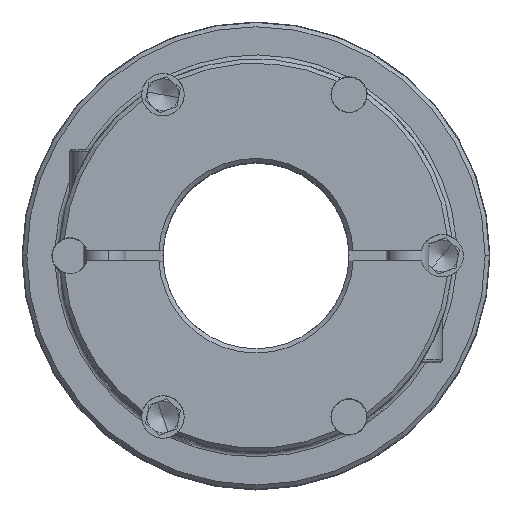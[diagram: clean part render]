
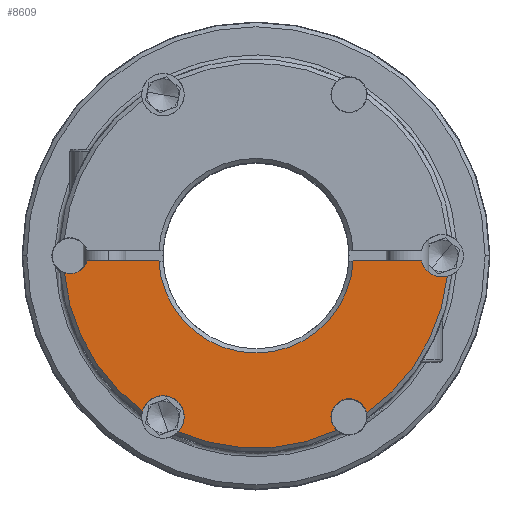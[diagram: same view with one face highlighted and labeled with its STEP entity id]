
A CAD part, top view. The second image highlights one B-rep face of the part: STEP entity #8609.
In plain terms, the highlighted planar face has unit normal (0, 0, 1).
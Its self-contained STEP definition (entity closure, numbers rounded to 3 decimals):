
#317 = CARTESIAN_POINT ( 'NONE',  ( -36.055, -3.232, 34.15 ) ) ;
#362 = ORIENTED_EDGE ( 'NONE', *, *, #17012, .T. ) ;
#499 = CIRCLE ( 'NONE', #13444, 18.3 ) ;
#884 = ORIENTED_EDGE ( 'NONE', *, *, #22880, .T. ) ;
#1342 = CIRCLE ( 'NONE', #6514, 3.4 ) ;
#1372 = CARTESIAN_POINT ( 'NONE',  ( 0., 0., 34.15 ) ) ;
#1648 = CARTESIAN_POINT ( 'NONE',  ( -31.75, -1., 34.15 ) ) ;
#1771 = CIRCLE ( 'NONE', #14701, 36.2 ) ;
#2232 = EDGE_CURVE ( 'NONE', #13104, #17610, #18995, .T. ) ;
#2491 = CARTESIAN_POINT ( 'NONE',  ( -18.273, -1., 34.15 ) ) ;
#2518 = DIRECTION ( 'NONE',  ( 1., 0., 0. ) ) ;
#2785 = DIRECTION ( 'NONE',  ( 0., 0., 1. ) ) ;
#3213 = AXIS2_PLACEMENT_3D ( 'NONE', #17622, #21471, #5693 ) ;
#3485 = CARTESIAN_POINT ( 'NONE',  ( -14.64, -33.108, 34.15 ) ) ;
#3672 = DIRECTION ( 'NONE',  ( 1., 0., 0. ) ) ;
#3753 = CARTESIAN_POINT ( 'NONE',  ( 0., 0., 34.15 ) ) ;
#3754 = VECTOR ( 'NONE', #3672, 1000. ) ;
#3868 = DIRECTION ( 'NONE',  ( 1., 0., 0. ) ) ;
#4063 = CARTESIAN_POINT ( 'NONE',  ( 0., 0., 34.15 ) ) ;
#4842 = AXIS2_PLACEMENT_3D ( 'NONE', #6094, #13279, #20482 ) ;
#5020 = AXIS2_PLACEMENT_3D ( 'NONE', #11571, #8096, #17007 ) ;
#5388 = CARTESIAN_POINT ( 'NONE',  ( -44., -1., 34.15 ) ) ;
#5563 = DIRECTION ( 'NONE',  ( 0., 0., 1. ) ) ;
#5594 = VERTEX_POINT ( 'NONE', #19802 ) ;
#5693 = DIRECTION ( 'NONE',  ( 0.5, 0.866, 0. ) ) ;
#5777 = CARTESIAN_POINT ( 'NONE',  ( 18.273, -1., 34.15 ) ) ;
#6094 = CARTESIAN_POINT ( 'NONE',  ( 17.5, -30.311, 34.15 ) ) ;
#6514 = AXIS2_PLACEMENT_3D ( 'NONE', #7977, #22233, #17120 ) ;
#7151 = EDGE_CURVE ( 'NONE', #11296, #5594, #17685, .T. ) ;
#7259 = ORIENTED_EDGE ( 'NONE', *, *, #7905, .T. ) ;
#7905 = EDGE_CURVE ( 'NONE', #20578, #11296, #1342, .T. ) ;
#7977 = CARTESIAN_POINT ( 'NONE',  ( 17.5, -30.311, 34.15 ) ) ;
#8094 = DIRECTION ( 'NONE',  ( 1., 0., 0. ) ) ;
#8096 = DIRECTION ( 'NONE',  ( 0., 0., -1. ) ) ;
#8609 = ADVANCED_FACE ( 'NONE', ( #12848 ), #9048, .T. ) ;
#9048 = PLANE ( 'NONE',  #20468 ) ;
#9108 = EDGE_CURVE ( 'NONE', #17994, #10118, #499, .T. ) ;
#9152 = DIRECTION ( 'NONE',  ( 0., 0., -1. ) ) ;
#9469 = CARTESIAN_POINT ( 'NONE',  ( 0., 0., 34.15 ) ) ;
#10020 = CIRCLE ( 'NONE', #4842, 3.4 ) ;
#10118 = VERTEX_POINT ( 'NONE', #2491 ) ;
#10238 = EDGE_LOOP ( 'NONE', ( #21371, #10383, #15024, #10656, #16852, #362, #7259, #10539, #884, #12604, #20233 ) ) ;
#10259 = EDGE_CURVE ( 'NONE', #17994, #20498, #21357, .T. ) ;
#10383 = ORIENTED_EDGE ( 'NONE', *, *, #15011, .T. ) ;
#10539 = ORIENTED_EDGE ( 'NONE', *, *, #7151, .T. ) ;
#10656 = ORIENTED_EDGE ( 'NONE', *, *, #21184, .T. ) ;
#10831 = CARTESIAN_POINT ( 'NONE',  ( 15.229, -32.841, 34.15 ) ) ;
#11040 = AXIS2_PLACEMENT_3D ( 'NONE', #1372, #2785, #8094 ) ;
#11296 = VERTEX_POINT ( 'NONE', #18119 ) ;
#11505 = EDGE_CURVE ( 'NONE', #19724, #10118, #17646, .T. ) ;
#11571 = CARTESIAN_POINT ( 'NONE',  ( -35., 0., 34.15 ) ) ;
#12445 = CARTESIAN_POINT ( 'NONE',  ( 31.127, -1., 34.15 ) ) ;
#12604 = ORIENTED_EDGE ( 'NONE', *, *, #10259, .F. ) ;
#12743 = DIRECTION ( 'NONE',  ( 1., 0., 0. ) ) ;
#12848 = FACE_OUTER_BOUND ( 'NONE', #10238, .T. ) ;
#13104 = VERTEX_POINT ( 'NONE', #317 ) ;
#13272 = DIRECTION ( 'NONE',  ( 1., 0., 0. ) ) ;
#13275 = DIRECTION ( 'NONE',  ( 0., 0., -1. ) ) ;
#13279 = DIRECTION ( 'NONE',  ( 0., 0., -1. ) ) ;
#13385 = DIRECTION ( 'NONE',  ( 0., 0., 1. ) ) ;
#13444 = AXIS2_PLACEMENT_3D ( 'NONE', #15006, #13275, #2518 ) ;
#13890 = CIRCLE ( 'NONE', #5020, 3.4 ) ;
#14052 = CARTESIAN_POINT ( 'NONE',  ( -21.352, -29.232, 34.15 ) ) ;
#14124 = CARTESIAN_POINT ( 'NONE',  ( 35., 0., 34.15 ) ) ;
#14701 = AXIS2_PLACEMENT_3D ( 'NONE', #3753, #19721, #3868 ) ;
#15006 = CARTESIAN_POINT ( 'NONE',  ( 0., 0., 34.15 ) ) ;
#15010 = CIRCLE ( 'NONE', #3213, 4. ) ;
#15011 = EDGE_CURVE ( 'NONE', #19724, #13104, #13890, .T. ) ;
#15024 = ORIENTED_EDGE ( 'NONE', *, *, #2232, .T. ) ;
#15903 = CARTESIAN_POINT ( 'NONE',  ( 14.1, -30.311, 34.15 ) ) ;
#16077 = DIRECTION ( 'NONE',  ( -1., 0., 0. ) ) ;
#16198 = VERTEX_POINT ( 'NONE', #10831 ) ;
#16384 = AXIS2_PLACEMENT_3D ( 'NONE', #9469, #13385, #13272 ) ;
#16797 = VERTEX_POINT ( 'NONE', #3485 ) ;
#16852 = ORIENTED_EDGE ( 'NONE', *, *, #22500, .T. ) ;
#17007 = DIRECTION ( 'NONE',  ( -1., 0., 0. ) ) ;
#17012 = EDGE_CURVE ( 'NONE', #16198, #20578, #10020, .T. ) ;
#17120 = DIRECTION ( 'NONE',  ( -1., 0., 0. ) ) ;
#17610 = VERTEX_POINT ( 'NONE', #14052 ) ;
#17622 = CARTESIAN_POINT ( 'NONE',  ( -17.5, -30.311, 34.15 ) ) ;
#17646 = LINE ( 'NONE', #5388, #3754 ) ;
#17676 = CIRCLE ( 'NONE', #18049, 4. ) ;
#17685 = CIRCLE ( 'NONE', #11040, 36.2 ) ;
#17712 = DIRECTION ( 'NONE',  ( 1., 0., 0. ) ) ;
#17994 = VERTEX_POINT ( 'NONE', #5777 ) ;
#18049 = AXIS2_PLACEMENT_3D ( 'NONE', #14124, #9152, #16077 ) ;
#18119 = CARTESIAN_POINT ( 'NONE',  ( 20.827, -29.609, 34.15 ) ) ;
#18995 = CIRCLE ( 'NONE', #16384, 36.2 ) ;
#19721 = DIRECTION ( 'NONE',  ( 0., 0., 1. ) ) ;
#19724 = VERTEX_POINT ( 'NONE', #1648 ) ;
#19802 = CARTESIAN_POINT ( 'NONE',  ( 35.992, -3.875, 34.15 ) ) ;
#20233 = ORIENTED_EDGE ( 'NONE', *, *, #9108, .T. ) ;
#20370 = VECTOR ( 'NONE', #12743, 1000. ) ;
#20468 = AXIS2_PLACEMENT_3D ( 'NONE', #4063, #5563, #17712 ) ;
#20482 = DIRECTION ( 'NONE',  ( -1., 0., 0. ) ) ;
#20498 = VERTEX_POINT ( 'NONE', #12445 ) ;
#20578 = VERTEX_POINT ( 'NONE', #15903 ) ;
#21184 = EDGE_CURVE ( 'NONE', #17610, #16797, #15010, .T. ) ;
#21239 = CARTESIAN_POINT ( 'NONE',  ( -44., -1., 34.15 ) ) ;
#21357 = LINE ( 'NONE', #21239, #20370 ) ;
#21371 = ORIENTED_EDGE ( 'NONE', *, *, #11505, .F. ) ;
#21471 = DIRECTION ( 'NONE',  ( 0., 0., -1. ) ) ;
#22233 = DIRECTION ( 'NONE',  ( 0., 0., -1. ) ) ;
#22500 = EDGE_CURVE ( 'NONE', #16797, #16198, #1771, .T. ) ;
#22880 = EDGE_CURVE ( 'NONE', #5594, #20498, #17676, .T. ) ;
